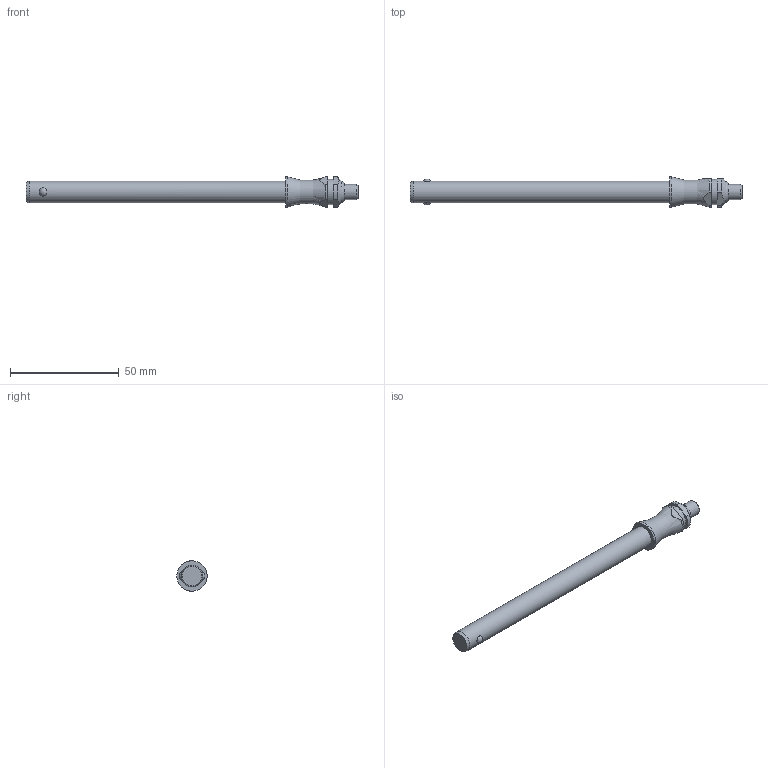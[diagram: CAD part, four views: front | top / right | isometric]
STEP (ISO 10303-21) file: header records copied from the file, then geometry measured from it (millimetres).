
FILE_DESCRIPTION( ( 'STEP AP203' ), '1' );
FILE_NAME( 'C:/Temp/Ganter_Step_05_03_2020/data/3_1/gn113_3/Stainless Steel-Ball lock pin GN 113.3-10-110 (deactivated).stp', '2020-03-12T08:18:38', ( 'License CC BY-ND 4.0' ), ( 'CADENAS' ), ' ', 'PARTsolutions', ' ' );
FILE_SCHEMA( ( 'CONFIG_CONTROL_DESIGN' ) );
Length unit declared in the file: millimetre
Products named in the file (1): _Stainless Steel-Ball lock pin GN 113.3-10-110 (deactivated)
Bounding box: 152.9 x 14 x 14 mm (x, y, z)
Volume: 12618.8 mm3; surface area: 5216.3 mm2
Topology: 1 solids, 1 shells, 28 faces, 60 edges, 39 vertices
Faces by surface type: plane 11, cylinder 10, cone 3, torus 2, sphere 2
Full cylindrical faces by diameter (mm): 7 x1, 10 x1, 11.6 x1, 14 x1
Entity records: 940 total; most frequent: CARTESIAN_POINT 327, DIRECTION 122, ORIENTED_EDGE 98, AXIS2_PLACEMENT_3D 52, EDGE_CURVE 49, EDGE_LOOP 42, VERTEX_POINT 37, FACE_OUTER_BOUND 34
